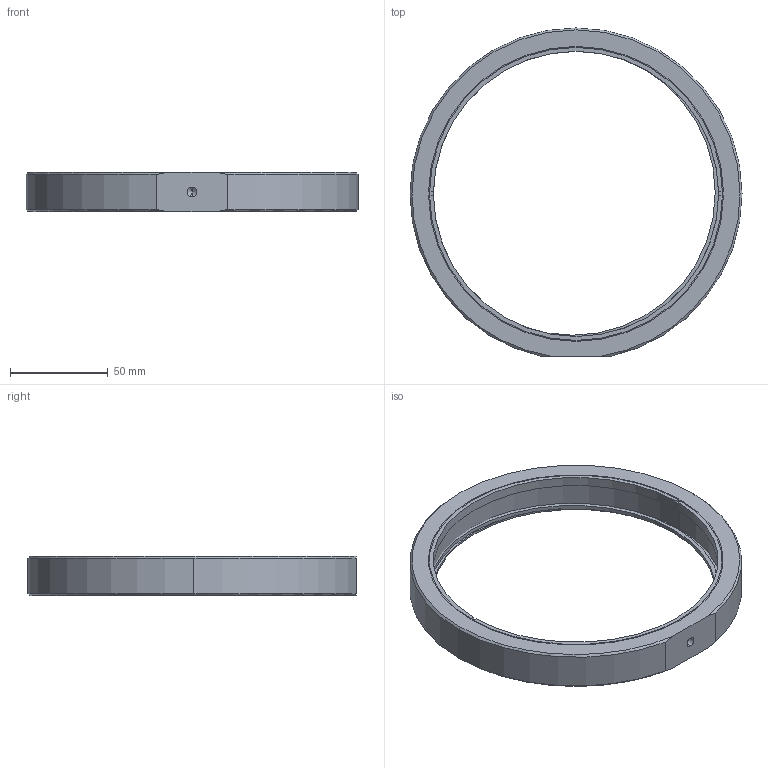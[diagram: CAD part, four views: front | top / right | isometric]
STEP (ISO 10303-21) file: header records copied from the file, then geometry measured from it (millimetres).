
FILE_DESCRIPTION (( 'STEP AP203' ), '1' );
FILE_NAME ('蚾饜芞 HGMML3150.STEP', '2021-07-20T06:21:43', ( '' ), ( '' ), 'SwSTEP 2.0', 'SolidWorks 2020', '' );
FILE_SCHEMA (( 'CONFIG_CONTROL_DESIGN' ));
Length unit declared in the file: millimetre
Products named in the file (4): M151x1.0d146H3 ѹȦ; HGMML3150-1; D150d146T2-ｾﾛﾋﾄｷ昮ﾒﾏｩ  ｾﾛﾋﾄｷ昮ﾒﾏｩｵ貶ｦ; 蚾饜芞 HGMML3150
Assembly tree (3 placements, depth 2):
  蚾饜芞 HGMML3150
    HGMML3150-1
    M151x1.0d146H3 ѹȦ
    D150d146T2-ｾﾛﾋﾄｷ昮ﾒﾏｩ  ｾﾛﾋﾄｷ昮ﾒﾏｩｵ貶ｦ
Bounding box: 170 x 168 x 20 mm (x, y, z)
Volume: 107078.3 mm3; surface area: 43069.4 mm2
Topology: 3 solids, 3 shells, 43 faces, 102 edges, 65 vertices
Faces by surface type: cylinder 19, plane 16, cone 8
Entity records: 1676 total; most frequent: DIRECTION 246, CARTESIAN_POINT 226, ORIENTED_EDGE 200, AXIS2_PLACEMENT_3D 101, EDGE_CURVE 100, VERTEX_POINT 65, CIRCLE 52, EDGE_LOOP 51
